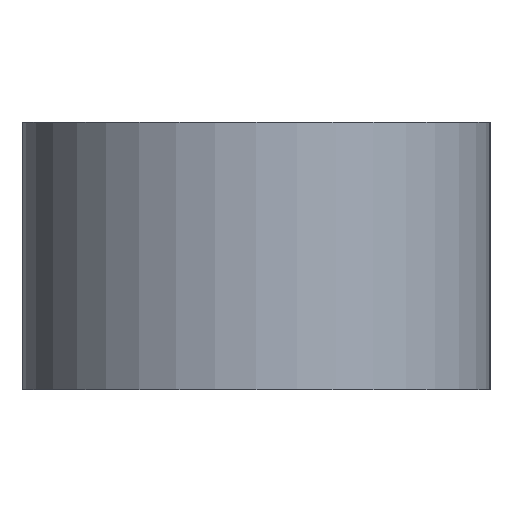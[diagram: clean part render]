
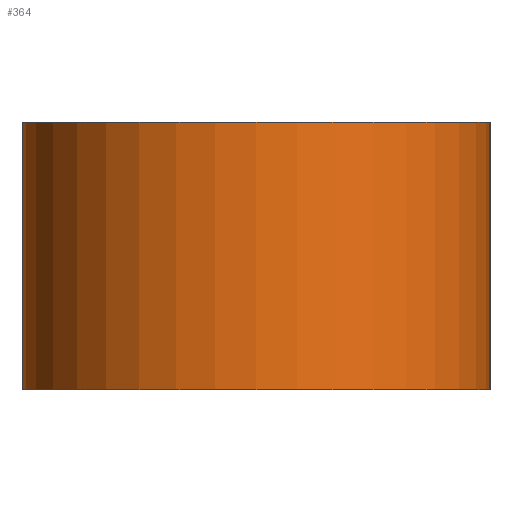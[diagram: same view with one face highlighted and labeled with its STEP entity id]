
A CAD part, left-side view. The second image highlights one B-rep face of the part: STEP entity #364.
In plain terms, the highlighted cylindrical face has radius 4 mm (diameter 8 mm), a partial arc.
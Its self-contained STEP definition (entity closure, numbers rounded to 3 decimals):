
#29 = AXIS2_PLACEMENT_3D ( 'NONE', #417, #256, #1150 ) ;
#59 = DIRECTION ( 'NONE',  ( 0., 0., -1. ) ) ;
#73 = CARTESIAN_POINT ( 'NONE',  ( -4., 0., 2.286 ) ) ;
#86 = EDGE_LOOP ( 'NONE', ( #533, #643, #618, #922 ) ) ;
#91 = VERTEX_POINT ( 'NONE', #733 ) ;
#162 = EDGE_CURVE ( 'NONE', #286, #905, #731, .T. ) ;
#166 = CARTESIAN_POINT ( 'NONE',  ( 0., 0., -2.286 ) ) ;
#171 = CYLINDRICAL_SURFACE ( 'NONE', #737, 4. ) ;
#240 = DIRECTION ( 'NONE',  ( 1., 0., 0. ) ) ;
#245 = VECTOR ( 'NONE', #474, 1000. ) ;
#256 = DIRECTION ( 'NONE',  ( 0., 0., 1. ) ) ;
#286 = VERTEX_POINT ( 'NONE', #808 ) ;
#364 = ADVANCED_FACE ( 'NONE', ( #914 ), #171, .T. ) ;
#369 = EDGE_CURVE ( 'NONE', #91, #905, #459, .T. ) ;
#417 = CARTESIAN_POINT ( 'NONE',  ( 0., 0., 2.286 ) ) ;
#455 = DIRECTION ( 'NONE',  ( 0., 0., -1. ) ) ;
#459 = LINE ( 'NONE', #1083, #245 ) ;
#474 = DIRECTION ( 'NONE',  ( 0., 0., -1. ) ) ;
#498 = CARTESIAN_POINT ( 'NONE',  ( 4., 0., -2.286 ) ) ;
#533 = ORIENTED_EDGE ( 'NONE', *, *, #162, .T. ) ;
#597 = VERTEX_POINT ( 'NONE', #73 ) ;
#605 = EDGE_CURVE ( 'NONE', #597, #286, #1051, .T. ) ;
#618 = ORIENTED_EDGE ( 'NONE', *, *, #676, .F. ) ;
#643 = ORIENTED_EDGE ( 'NONE', *, *, #369, .F. ) ;
#667 = AXIS2_PLACEMENT_3D ( 'NONE', #166, #1029, #240 ) ;
#676 = EDGE_CURVE ( 'NONE', #597, #91, #1003, .T. ) ;
#731 = CIRCLE ( 'NONE', #667, 4. ) ;
#733 = CARTESIAN_POINT ( 'NONE',  ( 4., 0., 2.286 ) ) ;
#737 = AXIS2_PLACEMENT_3D ( 'NONE', #989, #455, #814 ) ;
#808 = CARTESIAN_POINT ( 'NONE',  ( -4., 0., -2.286 ) ) ;
#814 = DIRECTION ( 'NONE',  ( -1., 0., 0. ) ) ;
#905 = VERTEX_POINT ( 'NONE', #498 ) ;
#914 = FACE_OUTER_BOUND ( 'NONE', #86, .T. ) ;
#922 = ORIENTED_EDGE ( 'NONE', *, *, #605, .T. ) ;
#979 = CARTESIAN_POINT ( 'NONE',  ( -4., 0., 2.286 ) ) ;
#989 = CARTESIAN_POINT ( 'NONE',  ( 0., 0., 2.286 ) ) ;
#1003 = CIRCLE ( 'NONE', #29, 4. ) ;
#1021 = VECTOR ( 'NONE', #59, 1000. ) ;
#1029 = DIRECTION ( 'NONE',  ( 0., 0., 1. ) ) ;
#1051 = LINE ( 'NONE', #979, #1021 ) ;
#1083 = CARTESIAN_POINT ( 'NONE',  ( 4., 0., 2.286 ) ) ;
#1150 = DIRECTION ( 'NONE',  ( 1., 0., 0. ) ) ;
